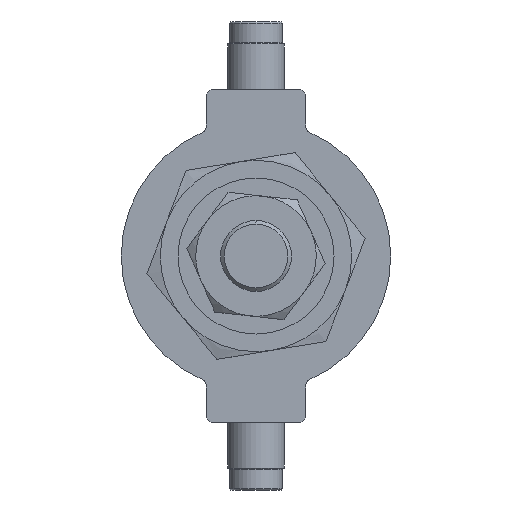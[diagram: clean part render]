
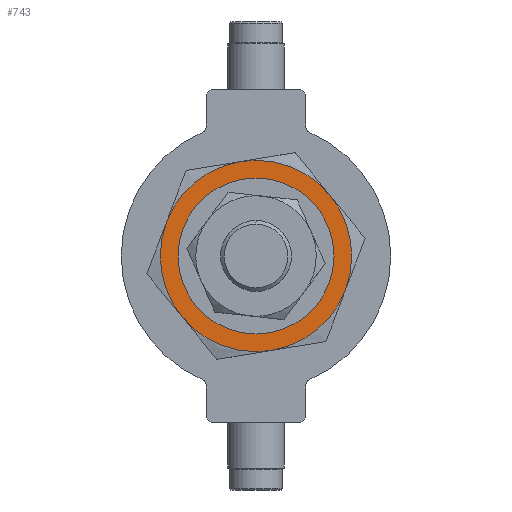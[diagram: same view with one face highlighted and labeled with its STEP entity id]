
A CAD part, left-side view. The second image highlights one B-rep face of the part: STEP entity #743.
In plain terms, the highlighted planar face has unit normal (-1, 0, 0) as drawn and (0, 0, -1) by its records, which use the part's own axes.
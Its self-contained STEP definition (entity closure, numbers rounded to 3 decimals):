
#81 = AXIS2_PLACEMENT_3D ( 'NONE', #4469, #1219, #3417 ) ;
#182 = CARTESIAN_POINT ( 'NONE',  ( 0., 0., -1.5 ) ) ;
#241 = CARTESIAN_POINT ( 'NONE',  ( -10.25, 0., -1.5 ) ) ;
#383 = AXIS2_PLACEMENT_3D ( 'NONE', #1563, #2648, #3736 ) ;
#429 = CARTESIAN_POINT ( 'NONE',  ( 10.25, 0., -1.5 ) ) ;
#487 = ORIENTED_EDGE ( 'NONE', *, *, #5295, .F. ) ;
#581 = VERTEX_POINT ( 'NONE', #4821 ) ;
#624 = CIRCLE ( 'NONE', #5579, 10.25 ) ;
#743 = ADVANCED_FACE ( 'NONE', ( #1003, #2744 ), #3561, .F. ) ;
#744 = CIRCLE ( 'NONE', #81, 13.5 ) ;
#796 = ORIENTED_EDGE ( 'NONE', *, *, #858, .F. ) ;
#858 = EDGE_CURVE ( 'NONE', #4969, #3174, #4074, .T. ) ;
#879 = VERTEX_POINT ( 'NONE', #4388 ) ;
#939 = CIRCLE ( 'NONE', #5585, 13.5 ) ;
#987 = DIRECTION ( 'NONE',  ( 0., 0., 1. ) ) ;
#996 = DIRECTION ( 'NONE',  ( 0., 0., 1. ) ) ;
#1003 = FACE_BOUND ( 'NONE', #3968, .T. ) ;
#1219 = DIRECTION ( 'NONE',  ( 0., 0., 1. ) ) ;
#1259 = DIRECTION ( 'NONE',  ( 1., 0., 0. ) ) ;
#1524 = DIRECTION ( 'NONE',  ( 0., 0., 1. ) ) ;
#1563 = CARTESIAN_POINT ( 'NONE',  ( 0., 0., -1.5 ) ) ;
#1619 = CIRCLE ( 'NONE', #3169, 13.5 ) ;
#1925 = EDGE_CURVE ( 'NONE', #3174, #4113, #1619, .T. ) ;
#2072 = CARTESIAN_POINT ( 'NONE',  ( 0., 0., -1.5 ) ) ;
#2106 = EDGE_CURVE ( 'NONE', #879, #581, #939, .T. ) ;
#2224 = EDGE_CURVE ( 'NONE', #4912, #5026, #624, .T. ) ;
#2364 = CARTESIAN_POINT ( 'NONE',  ( 0., 0., -1.5 ) ) ;
#2383 = DIRECTION ( 'NONE',  ( 1., 0., 0. ) ) ;
#2507 = DIRECTION ( 'NONE',  ( 0., 0., 1. ) ) ;
#2537 = AXIS2_PLACEMENT_3D ( 'NONE', #3281, #1524, #2696 ) ;
#2568 = DIRECTION ( 'NONE',  ( 0., 0., 1. ) ) ;
#2582 = EDGE_CURVE ( 'NONE', #4709, #4969, #744, .T. ) ;
#2648 = DIRECTION ( 'NONE',  ( 0., 0., 1. ) ) ;
#2696 = DIRECTION ( 'NONE',  ( 1., 0., 0. ) ) ;
#2719 = ORIENTED_EDGE ( 'NONE', *, *, #2106, .F. ) ;
#2720 = CIRCLE ( 'NONE', #2537, 13.5 ) ;
#2727 = DIRECTION ( 'NONE',  ( 1., 0., 0. ) ) ;
#2744 = FACE_OUTER_BOUND ( 'NONE', #5259, .T. ) ;
#2829 = AXIS2_PLACEMENT_3D ( 'NONE', #2072, #4500, #3698 ) ;
#3061 = CARTESIAN_POINT ( 'NONE',  ( -6.75, -11.691, -1.5 ) ) ;
#3097 = ORIENTED_EDGE ( 'NONE', *, *, #4395, .F. ) ;
#3152 = DIRECTION ( 'NONE',  ( 1., 0., 0. ) ) ;
#3169 = AXIS2_PLACEMENT_3D ( 'NONE', #4198, #2568, #4649 ) ;
#3174 = VERTEX_POINT ( 'NONE', #3920 ) ;
#3215 = CARTESIAN_POINT ( 'NONE',  ( 6.75, 11.691, -1.5 ) ) ;
#3281 = CARTESIAN_POINT ( 'NONE',  ( 0., 0., -1.5 ) ) ;
#3405 = DIRECTION ( 'NONE',  ( 0., 0., 1. ) ) ;
#3417 = DIRECTION ( 'NONE',  ( 1., 0., 0. ) ) ;
#3528 = ORIENTED_EDGE ( 'NONE', *, *, #4287, .T. ) ;
#3561 = PLANE ( 'NONE',  #383 ) ;
#3698 = DIRECTION ( 'NONE',  ( 1., 0., 0. ) ) ;
#3736 = DIRECTION ( 'NONE',  ( 1., 0., 0. ) ) ;
#3810 = CARTESIAN_POINT ( 'NONE',  ( 0., 0., -1.5 ) ) ;
#3920 = CARTESIAN_POINT ( 'NONE',  ( 13.5, 0., -1.5 ) ) ;
#3968 = EDGE_LOOP ( 'NONE', ( #3528, #4162 ) ) ;
#4036 = CIRCLE ( 'NONE', #5017, 13.5 ) ;
#4074 = CIRCLE ( 'NONE', #4714, 13.5 ) ;
#4113 = VERTEX_POINT ( 'NONE', #3215 ) ;
#4162 = ORIENTED_EDGE ( 'NONE', *, *, #2224, .T. ) ;
#4198 = CARTESIAN_POINT ( 'NONE',  ( 0., 0., -1.5 ) ) ;
#4287 = EDGE_CURVE ( 'NONE', #5026, #4912, #4307, .T. ) ;
#4307 = CIRCLE ( 'NONE', #2829, 10.25 ) ;
#4388 = CARTESIAN_POINT ( 'NONE',  ( -6.75, 11.691, -1.5 ) ) ;
#4395 = EDGE_CURVE ( 'NONE', #581, #4709, #2720, .T. ) ;
#4469 = CARTESIAN_POINT ( 'NONE',  ( 0., 0., -1.5 ) ) ;
#4500 = DIRECTION ( 'NONE',  ( 0., 0., 1. ) ) ;
#4649 = DIRECTION ( 'NONE',  ( 1., 0., 0. ) ) ;
#4709 = VERTEX_POINT ( 'NONE', #3061 ) ;
#4714 = AXIS2_PLACEMENT_3D ( 'NONE', #182, #2507, #3152 ) ;
#4775 = ORIENTED_EDGE ( 'NONE', *, *, #2582, .F. ) ;
#4821 = CARTESIAN_POINT ( 'NONE',  ( -13.5, 0., -1.5 ) ) ;
#4912 = VERTEX_POINT ( 'NONE', #241 ) ;
#4969 = VERTEX_POINT ( 'NONE', #5440 ) ;
#5017 = AXIS2_PLACEMENT_3D ( 'NONE', #5377, #3405, #2383 ) ;
#5026 = VERTEX_POINT ( 'NONE', #429 ) ;
#5259 = EDGE_LOOP ( 'NONE', ( #5345, #796, #4775, #3097, #2719, #487 ) ) ;
#5295 = EDGE_CURVE ( 'NONE', #4113, #879, #4036, .T. ) ;
#5345 = ORIENTED_EDGE ( 'NONE', *, *, #1925, .F. ) ;
#5377 = CARTESIAN_POINT ( 'NONE',  ( 0., 0., -1.5 ) ) ;
#5440 = CARTESIAN_POINT ( 'NONE',  ( 6.75, -11.691, -1.5 ) ) ;
#5579 = AXIS2_PLACEMENT_3D ( 'NONE', #2364, #996, #2727 ) ;
#5585 = AXIS2_PLACEMENT_3D ( 'NONE', #3810, #987, #1259 ) ;
